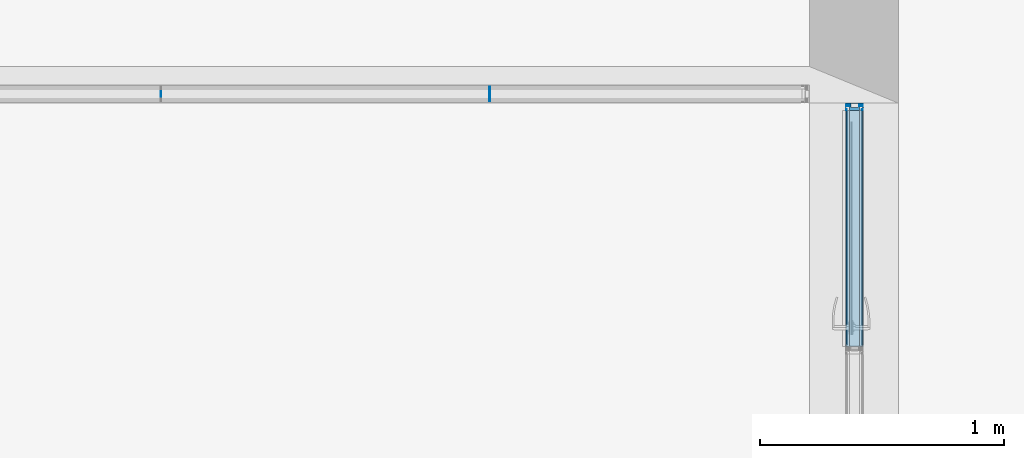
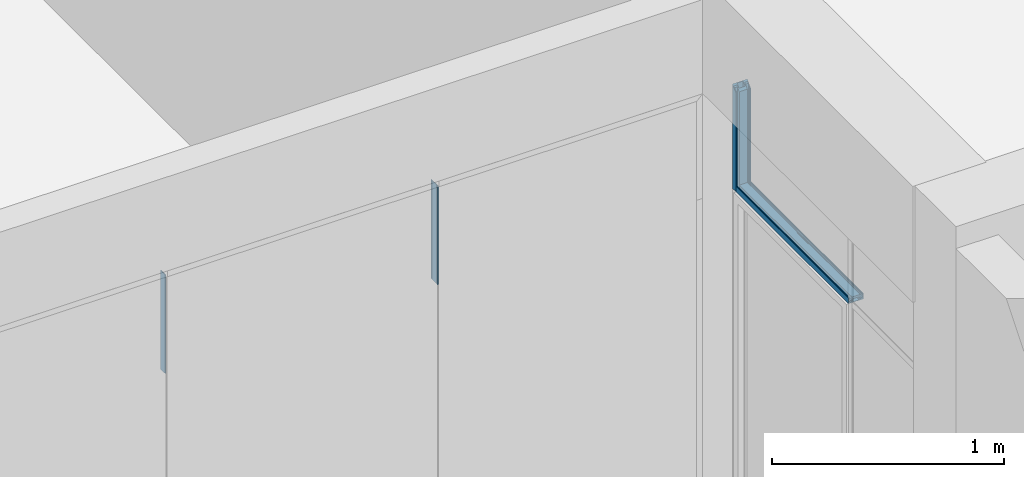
# One storey, part 33 of 89: 7 building element parts, 6 elements without a shape of their own.
"""IFC2X3 building model written with IfcOpenShell, lengths in millimetres."""

import ifcopenshell
import ifcopenshell.guid

model = None  # the IFC model being written
_history = None  # IfcOwnerHistory: only IFC2X3 demands one
_inside = {}  # id of a spatial element -> (the spatial element, [elements in it])
_under = {}  # id of a project, library or spatial element -> (it, [spatial elements below it])
_declared = {}  # id of a project -> (the project, [libraries it declares])
_typed = {}  # id of a type object -> (the type object, [elements of that type])
_made_of = {}  # id of a material, layer set ... -> (it, [elements and type objects made of it])


def new_model(schema):
    """Start an empty IFC model of exactly this schema.

    Asked for "IFC4X3", IfcOpenShell would pick the latest addendum, in which some entities
    have other attributes; the version numbers below select the first issue.
    IFC2X3 requires an IfcOwnerHistory on every rooted entity: one is made here for all.
    """
    global model, _history
    if schema == "IFC4X3":
        model = ifcopenshell.file(schema_version=(4, 3, 0, 0))
    else:
        model = ifcopenshell.file(schema=schema)
    _inside.clear()
    _under.clear()
    _declared.clear()
    _typed.clear()
    _made_of.clear()
    _history = None
    if model.schema == "IFC2X3":
        org = make("IfcOrganization", Name="unknown")
        user = make(
            "IfcPersonAndOrganization",
            ThePerson=make("IfcPerson", FamilyName="unknown"),
            TheOrganization=org,
        )
        app = make(
            "IfcApplication",
            ApplicationDeveloper=org,
            Version="unknown",
            ApplicationFullName="unknown",
            ApplicationIdentifier="unknown",
        )
        _history = make(
            "IfcOwnerHistory",
            OwningUser=user,
            OwningApplication=app,
            ChangeAction="ADDED",
            CreationDate=0,
        )
    return model


def make(cls, **values):
    """One entity of the class cls with the attributes given. An attribute that is None is left unset."""
    return model.create_entity(
        cls, **{name: value for name, value in values.items() if value is not None}
    )


def entity(cls, *values):
    """Any entity or typed value of the class cls, its attributes in the order of the schema. None: left unset."""
    e = model.create_entity(cls)
    for i, value in enumerate(values):
        if value is not None:
            e[i] = value
    return e


def rooted(cls, **values):
    """An entity with a GlobalId (a new one), such as an element, a storey or a relation."""
    return make(cls, GlobalId=ifcopenshell.guid.new(), OwnerHistory=_history, **values)


def si_unit(unit_type, name, prefix=None):
    """IfcSIUnit, for example si_unit("LENGTHUNIT", "METRE", prefix="MILLI")."""
    return make("IfcSIUnit", UnitType=unit_type, Prefix=prefix, Name=name)


def converted_unit(unit_type, name, factor, base, dimensions=None, offset=None):
    """IfcConversionBasedUnit, such as the inch: factor (a typed value) times the base unit."""
    return make(
        "IfcConversionBasedUnit"
        if offset is None
        else "IfcConversionBasedUnitWithOffset",
        ConversionOffset=offset,
        Dimensions=None
        if dimensions is None
        else entity("IfcDimensionalExponents", *dimensions),
        UnitType=unit_type,
        Name=name,
        ConversionFactor=make(
            "IfcMeasureWithUnit", ValueComponent=factor, UnitComponent=base
        ),
    )


def derived_unit(unit_type, elements):
    """IfcDerivedUnit: a product of units, each with its exponent."""
    return make(
        "IfcDerivedUnit",
        Elements=[
            make("IfcDerivedUnitElement", Unit=unit, Exponent=power)
            for unit, power in elements
        ],
        UnitType=unit_type,
    )


def money_unit(currency):
    """IfcMonetaryUnit."""
    return make("IfcMonetaryUnit", Currency=currency)


def assignment(units):
    """IfcUnitAssignment: the units of a project."""
    return None if units is None else make("IfcUnitAssignment", Units=units)


def point(xyz):
    """IfcCartesianPoint."""
    return None if xyz is None else make("IfcCartesianPoint", Coordinates=xyz)


def direction(xyz):
    """IfcDirection."""
    return None if xyz is None else make("IfcDirection", DirectionRatios=xyz)


def frame(location, z_axis=None, x_axis=None):
    """IfcAxis2Placement3D, a coordinate frame: its origin and axes. An axis left out is left unset."""
    return make(
        "IfcAxis2Placement3D",
        Location=point(location),
        Axis=direction(z_axis),
        RefDirection=direction(x_axis),
    )


def origin_with_axes():
    """The frame at (0, 0, 0) with the z axis (0, 0, 1) and the x axis (1, 0, 0) written out."""
    return frame((0.0, 0.0, 0.0), z_axis=(0.0, 0.0, 1.0), x_axis=(1.0, 0.0, 0.0))


def place(relative_to, where):
    """IfcLocalPlacement: puts the frame where relative to a parent placement (None: the world)."""
    return make(
        "IfcLocalPlacement", PlacementRelTo=relative_to, RelativePlacement=where
    )


def context(
    kind, dimensions, precision=None, world=None, true_north=None, identifier=None
):
    """IfcGeometricRepresentationContext, for example the 3D "Model" context."""
    return make(
        "IfcGeometricRepresentationContext",
        ContextIdentifier=identifier,
        ContextType=kind,
        CoordinateSpaceDimension=dimensions,
        Precision=precision,
        WorldCoordinateSystem=world,
        TrueNorth=true_north,
    )


def subcontext(parent, identifier, kind, view, scale=None):
    """IfcGeometricRepresentationSubContext, for example "Body" below "Model"."""
    return make(
        "IfcGeometricRepresentationSubContext",
        ContextIdentifier=identifier,
        ContextType=kind,
        ParentContext=parent,
        TargetScale=scale,
        TargetView=view,
    )


def project(units=None, contexts=None):
    """IfcProject with its units and contexts."""
    return rooted(
        "IfcProject",
        Name="project",
        RepresentationContexts=contexts,
        UnitsInContext=assignment(units),
    )


def spatial(cls, under=None, at=None, **own):
    """A site, building, storey or space (cls), placed at a placement, below another one or the project."""
    s = rooted(cls, ObjectPlacement=at, **own)
    if under is not None:
        _under.setdefault(under.id(), (under, []))[1].append(s)
    return s


def faces_of(points, faces, orient=None, outer=None):
    """IfcFace entities. A face is a list of loops; a loop is a list of indices into points, from 0.

    orient and outer hold one flag for each loop. By default every Orientation is true, the
    first loop of a face is its IfcFaceOuterBound and the others are IfcFaceBound.
    """
    made = []
    for i, loops in enumerate(faces):
        bounds = []
        for j, loop in enumerate(loops):
            is_outer = j == 0 if outer is None else outer[i][j]
            bounds.append(
                make(
                    "IfcFaceOuterBound" if is_outer else "IfcFaceBound",
                    Bound=make("IfcPolyLoop", Polygon=[points[k] for k in loop]),
                    Orientation=True if orient is None else orient[i][j],
                )
            )
        made.append(make("IfcFace", Bounds=bounds))
    return made


def faceted_brep(points, faces, orient=None, outer=None, voids=None):
    """IfcFacetedBrep: a solid bounded by flat faces; with voids (closed shells), ...WithVoids."""
    shared = [point(p) for p in points]
    hull = make("IfcClosedShell", CfsFaces=faces_of(shared, faces, orient, outer))
    if voids is None:
        return make("IfcFacetedBrep", Outer=hull)
    return make(
        "IfcFacetedBrepWithVoids",
        Outer=hull,
        Voids=[
            make(cls, CfsFaces=faces_of(shared, fs, o, b)) for cls, fs, o, b in voids
        ],
    )


def shape(context_of_items, identifier, shape_type, items):
    """IfcShapeRepresentation: the items that make up one representation, for example the "Body"."""
    return make(
        "IfcShapeRepresentation",
        ContextOfItems=context_of_items,
        RepresentationIdentifier=identifier,
        RepresentationType=shape_type,
        Items=items,
    )


def source(mapping_origin, context_of_items, identifier, shape_type, items):
    """IfcRepresentationMap: a shape defined once, which mapped items show again and again."""
    return make(
        "IfcRepresentationMap",
        MappingOrigin=mapping_origin,
        MappedRepresentation=shape(context_of_items, identifier, shape_type, items),
    )


def transform(
    local_origin,
    x_axis=None,
    y_axis=None,
    z_axis=None,
    scale=None,
    scale2=None,
    scale3=None,
    uniform=True,
):
    """IfcCartesianTransformationOperator3D, or its non-uniform kind. x_axis, y_axis, z_axis: its Axis1, 2, 3."""
    if uniform:
        return make(
            "IfcCartesianTransformationOperator3D",
            Axis1=direction(x_axis),
            Axis2=direction(y_axis),
            LocalOrigin=point(local_origin),
            Scale=scale,
            Axis3=direction(z_axis),
        )
    return make(
        "IfcCartesianTransformationOperator3DnonUniform",
        Axis1=direction(x_axis),
        Axis2=direction(y_axis),
        LocalOrigin=point(local_origin),
        Scale=scale,
        Axis3=direction(z_axis),
        Scale2=scale2,
        Scale3=scale3,
    )


def mapped(mapping_source, mapping_target):
    """IfcMappedItem: shows the shape of a source again, moved by a transform."""
    return make(
        "IfcMappedItem", MappingSource=mapping_source, MappingTarget=mapping_target
    )


def material(Name=None, Category=None):
    """IfcMaterial."""
    return make("IfcMaterial", Name=Name, Category=Category)


def made_of(thing, what):
    """Note that an element or type object is made of a material, layer set ...; save() writes the relation."""
    if what is not None:
        _made_of.setdefault(what.id(), (what, []))[1].append(thing)
    return thing


def type_object(cls, material=None, **own):
    """A type object (cls), such as IfcWallType, which elements share."""
    return made_of(rooted(cls, **own), material)


def element(
    cls,
    number,
    at=None,
    inside=None,
    cuts=None,
    type_object=None,
    material=None,
    context=None,
    identifier="Body",
    shape_type=None,
    held_by="IfcProductDefinitionShape",
    body=None,
    shapes=None,
    **own,
):
    """One element of the class cls, such as IfcWall. Its Tag is "e" and its number.

    at: its placement. inside: the storey or other place that contains it. cuts: it is an
    opening in that element (IfcRelVoidsElement). A single representation is given by context,
    identifier, shape_type and body (its items); several are given by shapes. held_by: the class
    of the entity that holds the representations. save() writes the other relations.
    """
    e = rooted(cls, Tag="e%d" % number, ObjectPlacement=at, **own)
    if body is not None:
        shapes = [shape(context, identifier, shape_type, body)]
    if shapes is not None:
        e.Representation = make(held_by, Representations=shapes)
    if inside is not None:
        _inside.setdefault(inside.id(), (inside, []))[1].append(e)
    if cuts is not None:
        rooted(
            "IfcRelVoidsElement", RelatingBuildingElement=cuts, RelatedOpeningElement=e
        )
    if type_object is not None:
        _typed.setdefault(type_object.id(), (type_object, []))[1].append(e)
    return made_of(e, material)


def aggregate(whole, parts):
    """IfcRelAggregates: a whole, such as a stair, and the parts it consists of."""
    return rooted("IfcRelAggregates", RelatingObject=whole, RelatedObjects=parts)


def save(model, path):
    """Write the relations noted so far, then the file.

    IfcRelAggregates (storeys below a building ...), IfcRelContainedInSpatialStructure (elements
    in a storey), IfcRelDefinesByType, IfcRelAssociatesMaterial and IfcRelDeclares: one each for
    every whole, place, type object, material and project.
    """
    for whole, parts in _under.values():
        aggregate(whole, parts)
    for where, things in _inside.values():
        rooted(
            "IfcRelContainedInSpatialStructure",
            RelatedElements=things,
            RelatingStructure=where,
        )
    for kind, things in _typed.values():
        rooted("IfcRelDefinesByType", RelatedObjects=things, RelatingType=kind)
    for what, things in _made_of.values():
        rooted("IfcRelAssociatesMaterial", RelatedObjects=things, RelatingMaterial=what)
    for by, libraries in _declared.values():
        rooted("IfcRelDeclares", RelatingContext=by, RelatedDefinitions=libraries)
    model.write(path)


model = new_model("IFC2X3")

# Units and contexts
model_context = context("Model", 3, precision=0.01, world=origin_with_axes(), true_north=direction((0.0, 1.0)))
body_context = subcontext(model_context, "Body", "Model", "MODEL_VIEW")
ifc_project = project(units=[si_unit("LENGTHUNIT", "METRE", prefix="MILLI"), si_unit("AREAUNIT", "SQUARE_METRE"), si_unit("VOLUMEUNIT", "CUBIC_METRE"), converted_unit("PLANEANGLEUNIT", "DEGREE", entity("IfcPlaneAngleMeasure", 0.0174532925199), si_unit("PLANEANGLEUNIT", "RADIAN"), dimensions=[0, 0, 0, 0, 0, 0, 0]), si_unit("SOLIDANGLEUNIT", "STERADIAN"), money_unit("EUR"), converted_unit("TIMEUNIT", "Year", entity("IfcTimeMeasure", 31556926.0), si_unit("TIMEUNIT", "SECOND"), dimensions=[0, 0, 1, 0, 0, 0, 0]), si_unit("MASSUNIT", "GRAM", prefix="KILO"), si_unit("THERMODYNAMICTEMPERATUREUNIT", "DEGREE_CELSIUS"), si_unit("LUMINOUSINTENSITYUNIT", "LUMEN"), si_unit("ENERGYUNIT", "JOULE", prefix="MEGA"), derived_unit("THERMALCONDUCTANCEUNIT", [(si_unit("POWERUNIT", "WATT"), 1), (si_unit("LENGTHUNIT", "METRE"), -1), (si_unit("THERMODYNAMICTEMPERATUREUNIT", "KELVIN"), -1)]), derived_unit("SPECIFICHEATCAPACITYUNIT", [(si_unit("ENERGYUNIT", "JOULE"), 1), (si_unit("MASSUNIT", "GRAM", prefix="KILO"), -1), (si_unit("THERMODYNAMICTEMPERATUREUNIT", "KELVIN"), -1)]), derived_unit("MASSDENSITYUNIT", [(si_unit("MASSUNIT", "GRAM", prefix="KILO"), 1), (si_unit("VOLUMEUNIT", "CUBIC_METRE"), -1)])], contexts=[model_context])

# Site, building, storey
site_placement = place(None, origin_with_axes())
site = spatial("IfcSite", under=ifc_project, at=site_placement, Name="Puškini 31, Narva", CompositionType="ELEMENT")
building_placement = place(site_placement, origin_with_axes())
building = spatial("IfcBuilding", under=site, at=building_placement, Name="Narva Riigigümnaasium", CompositionType="ELEMENT")
storey_placement = place(building_placement, frame((0.0, 0.0, -3300.0), z_axis=(0.0, 0.0, 1.0), x_axis=(1.0, 0.0, 0.0)))
storey = spatial("IfcBuildingStorey", under=building, at=storey_placement, Name="1.korrus -3.3", CompositionType="ELEMENT", Elevation=-3300.0)

# Curtain wall, members, building element parts
curtain_wall_type = type_object("IfcCurtainWallType", Name="Curtain Wall Type", PredefinedType="NOTDEFINED")
curtain_wall_1_placement = place(storey_placement, frame((40014.000008, 243997.000057, -9.155864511e-06), z_axis=(0.0, 0.0, 1.0), x_axis=(1.0, 0.0, 0.0)))
curtain_wall_1 = element("IfcCurtainWall", 1, at=curtain_wall_1_placement, inside=storey, type_object=curtain_wall_type, Name="G-SKLF-09")
member_type_1 = type_object("IfcMemberType", Name="3 x 19", PredefinedType="MULLION")
member_1_placement = place(curtain_wall_1_placement, frame((6163.99999221, 0.0, 2400.00000716), z_axis=(0.0, 0.0, 1.0), x_axis=(-1.0, 0.0, 0.0)))
member_1 = element("IfcMember", 2, at=member_1_placement, type_object=member_type_1, Name="G-SKLF-12-raam", ObjectType="MULLION")
ifc_material_1 = material(Name="Klaas")
shared_shape_1 = source(origin_with_axes(), body_context, "Body", "Brep", [
    faceted_brep([(1.4999861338, 20.0064497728, 0.0), (1.4999861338, 20.0064497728, 519.999980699), (-1.5000138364, 20.0064497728, 519.999980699), (-1.5000138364, 20.0064497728, 0.0), (1.4999861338, 29.0064496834, 0.0), (1.4999861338, 29.0064496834, 519.999980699), (-1.5000138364, 29.0064496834, 519.999980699), (-1.5000138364, 29.0064496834, 0.0)], [[[0, 1, 2, 3]], [[4, 5, 1, 0]], [[1, 5, 6, 2]], [[3, 2, 6, 7]], [[0, 3, 7, 4]], [[7, 6, 5, 4]]]),
    faceted_brep([(1.4999861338, -19.993550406, 0.0), (1.4999861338, -19.993550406, 519.999980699), (1.4999861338, -28.9935503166, 519.999980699), (1.4999861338, -28.9935503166, 0.0), (-1.5000138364, -19.993550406, 0.0), (-1.5000138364, -19.993550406, 519.999980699), (-1.5000138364, -28.9935503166, 519.999980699), (-1.5000138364, -28.9935503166, 0.0)], [[[0, 1, 2, 3]], [[4, 5, 1, 0]], [[1, 5, 6, 2]], [[3, 2, 6, 7]], [[0, 3, 7, 4]], [[7, 6, 5, 4]]]),
])
building_element_part_1_placement = place(member_1_placement, origin_with_axes())
building_element_part_1 = element("IfcBuildingElementPart", 3, at=building_element_part_1_placement, material=ifc_material_1, Name="Klaas", context=body_context, shape_type="MappedRepresentation", body=[
    mapped(shared_shape_1, transform((0.0, 0.0, 0.0), x_axis=(-1.0, 0.0, 0.0), y_axis=(0.0, -1.0, 0.0), z_axis=(0.0, 0.0, 1.0))),
])
member_2_placement = place(curtain_wall_1_placement, frame((4813.99999221, 0.0, 2400.00000716), z_axis=(0.0, 0.0, 1.0), x_axis=(-1.0, 0.0, 0.0)))
member_2 = element("IfcMember", 4, at=member_2_placement, type_object=member_type_1, Name="G-SKLF-10-raam", ObjectType="MULLION")
aggregate(curtain_wall_1, [member_2, member_1])
ifc_material_2 = material(Name="VKR-06_Õhkvahe")
shared_shape_2 = source(origin_with_axes(), body_context, "Body", "Brep", [
    faceted_brep([(1.4999861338, 20.0064496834, 0.0), (1.4999861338, 20.0064496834, 519.999980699), (1.4999861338, -19.9935503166, 519.999980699), (1.4999861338, -19.9935503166, 0.0), (-1.5000138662, 20.0064496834, 0.0), (-1.5000138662, 20.0064496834, 519.999980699), (-1.5000138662, -19.9935503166, 519.999980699), (-1.5000138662, -19.9935503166, 0.0)], [[[0, 1, 2, 3]], [[4, 5, 1, 0]], [[1, 5, 6, 2]], [[3, 2, 6, 7]], [[0, 3, 7, 4]], [[7, 6, 5, 4]]]),
])
building_element_part_2_placement = place(member_2_placement, origin_with_axes())
building_element_part_2 = element("IfcBuildingElementPart", 5, at=building_element_part_2_placement, material=ifc_material_2, Name="VKR-06_Õhkvahe", context=body_context, shape_type="MappedRepresentation", body=[
    mapped(shared_shape_2, transform((0.0, 0.0, 0.0), x_axis=(-1.0, 0.0, 0.0), y_axis=(0.0, -1.0, 0.0), z_axis=(0.0, 0.0, 1.0))),
])
aggregate(member_2, [building_element_part_2])
building_element_part_3_placement = place(member_1_placement, origin_with_axes())
building_element_part_3 = element("IfcBuildingElementPart", 6, at=building_element_part_3_placement, material=ifc_material_2, Name="VKR-06_Õhkvahe", context=body_context, shape_type="MappedRepresentation", body=[
    mapped(shared_shape_2, transform((0.0, 0.0, 0.0), x_axis=(-1.0, 0.0, 0.0), y_axis=(0.0, -1.0, 0.0), z_axis=(0.0, 0.0, 1.0))),
])
aggregate(member_1, [building_element_part_1, building_element_part_3])

curtain_wall_2_placement = place(storey_placement, frame((47675.0000001, 242632.20006, -3.78005973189e-05), z_axis=(0.0, 0.0, 1.0), x_axis=(1.0, 0.0, 0.0)))
curtain_wall_2 = element("IfcCurtainWall", 7, at=curtain_wall_2_placement, inside=storey, type_object=curtain_wall_type, Name="G-SKLF-10")
member_type_2 = type_object("IfcMemberType", Name="30 x 37", PredefinedType="MULLION")
member_3_placement = place(curtain_wall_2_placement, frame((0.0, 1327.79999696, 2400.0000378), z_axis=(0.0, 0.0, 1.0), x_axis=(0.0, 1.0, 0.0)))
member_3 = element("IfcMember", 8, at=member_3_placement, type_object=member_type_2, Name="G-SKLF-10-raam", ObjectType="MULLION")
ifc_material_3 = material(Name="Klaasvill")
shared_shape_3 = source(origin_with_axes(), body_context, "Body", "Brep", [
    faceted_brep([(-7.49999990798, 20.000000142, 0.0), (-7.49999990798, 20.000000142, 542.499955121), (-13.8499999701, 20.000000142, 536.149955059), (-13.8499999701, 20.000000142, 0.0), (-7.49999990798, 34.0161444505, 0.0), (-7.49999990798, 34.0161444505, 542.499955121), (-13.8499999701, 34.0161444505, 536.149955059), (-13.8499999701, 34.0161444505, 0.0)], [[[0, 1, 2, 3]], [[4, 5, 1, 0]], [[1, 5, 6, 2]], [[3, 2, 6, 7]], [[0, 3, 7, 4]], [[7, 6, 5, 4]]]),
    faceted_brep([(-24.987414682, 34.0161444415, 0.0), (-24.987414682, 34.0161444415, 525.012540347), (-25.004489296, 32.0307503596, 524.995465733), (-25.004489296, 32.0307503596, 0.0), (-28.5126239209, 34.0161444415, 0.0), (-28.5126239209, 34.0161444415, 521.487331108), (-28.7655837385, 33.0385325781, 521.234371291), (-28.4955493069, 32.0307503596, 521.504405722), (-27.75780152, 31.2930025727, 522.242153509), (-26.7500193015, 31.0229681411, 523.249935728), (-25.742237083, 31.2930025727, 524.257717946), (-25.742237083, 31.2930025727, 0.0), (-26.7500193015, 31.0229681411, 0.0), (-27.75780152, 31.2930025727, 0.0), (-28.4955493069, 32.0307503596, 0.0), (-28.7655837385, 33.0385325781, 0.0)], [[[0, 1, 2, 3]], [[4, 5, 1, 0]], [[1, 5, 6, 7, 8, 9, 10, 2]], [[3, 2, 10, 11]], [[0, 3, 11, 12, 13, 14, 15, 4]], [[15, 6, 5, 4]], [[14, 7, 6, 15]], [[13, 8, 7, 14]], [[12, 9, 8, 13]], [[11, 10, 9, 12]]]),
    faceted_brep([(-7.49999990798, -19.9999997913, 0.0), (-7.49999990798, -19.9999997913, 542.499955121), (-7.49999990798, -34.0161445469, 542.499955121), (-7.49999990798, -34.0161445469, 0.0), (-13.8499999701, -19.9999997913, 0.0), (-13.8499999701, -19.9999997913, 536.149955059), (-13.8499999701, -34.0161445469, 536.149955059), (-13.8499999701, -34.0161445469, 0.0)], [[[0, 1, 2, 3]], [[4, 5, 1, 0]], [[1, 5, 6, 2]], [[3, 2, 6, 7]], [[0, 3, 7, 4]], [[7, 6, 5, 4]]]),
    faceted_brep([(-25.004489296, -32.0307503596, 0.0), (-25.004489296, -32.0307503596, 524.995465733), (-24.987414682, -34.0161444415, 525.012540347), (-24.987414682, -34.0161444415, 0.0), (-25.742237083, -31.2930025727, 0.0), (-25.742237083, -31.2930025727, 524.257717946), (-26.7500193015, -31.0229681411, 523.249935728), (-27.75780152, -31.2930025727, 522.242153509), (-28.4955493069, -32.0307503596, 521.504405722), (-28.7655837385, -33.0385325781, 521.234371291), (-28.5126239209, -34.0161444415, 521.487331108), (-28.5126239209, -34.0161444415, 0.0), (-28.7655837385, -33.0385325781, 0.0), (-28.4955493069, -32.0307503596, 0.0), (-27.75780152, -31.2930025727, 0.0), (-26.7500193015, -31.0229681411, 0.0)], [[[0, 1, 2, 3]], [[4, 5, 1, 0]], [[1, 5, 6, 7, 8, 9, 10, 2]], [[3, 2, 10, 11]], [[0, 3, 11, 12, 13, 14, 15, 4]], [[15, 6, 5, 4]], [[14, 7, 6, 15]], [[13, 8, 7, 14]], [[12, 9, 8, 13]], [[11, 10, 9, 12]]]),
])
building_element_part_4_placement = place(member_3_placement, origin_with_axes())
building_element_part_4 = element("IfcBuildingElementPart", 9, at=building_element_part_4_placement, material=ifc_material_3, Name="Klaasvill", context=body_context, shape_type="MappedRepresentation", body=[
    mapped(shared_shape_3, transform((0.0, 0.0, 0.0))),
])
ifc_material_4 = material(Name="Teras RAL7012")
shared_shape_4 = source(origin_with_axes(), body_context, "Body", "Brep", [
    faceted_brep([(0.0, -17.0000000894, 0.0), (0.0, -17.0000000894, 549.999955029), (-29.5999996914, -17.0000000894, 520.399955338), (-29.5999996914, -17.0000000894, 0.0), (0.0, 17.0000000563, 0.0), (0.0, 17.0000000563, 549.999955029), (-29.5999996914, 17.0000000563, 520.399955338), (-1.9999999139, 15.0000001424, 547.999955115), (-1.9999999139, -15.0000001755, 547.999955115), (-18.7999996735, -15.0000001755, 531.199955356), (-18.7999996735, 15.0000001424, 531.199955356), (-29.5999996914, 17.0000000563, 0.0), (-1.9999999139, 15.0000001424, 0.0), (-18.7999996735, 15.0000001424, 0.0), (-18.7999996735, -15.0000001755, 0.0), (-1.9999999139, -15.0000001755, 0.0)], [[[0, 1, 2, 3]], [[4, 5, 1, 0]], [[1, 5, 6, 2], [7, 8, 9, 10]], [[3, 2, 6, 11]], [[0, 3, 11, 4], [12, 13, 14, 15]], [[11, 6, 5, 4]], [[15, 8, 7, 12]], [[14, 9, 8, 15]], [[13, 10, 9, 14]], [[12, 7, 10, 13]]]),
    faceted_brep([(0.0, 17.0, 0.0), (0.0, 17.0, 549.999955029), (-29.5999996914, 17.0000000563, 520.399955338), (-29.5999996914, 17.0000000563, 0.0), (0.0, 37.0, 0.0), (0.0, 37.0, 549.999955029), (-30.0000193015, 37.0, 519.999935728), (-30.0000193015, 34.0161444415, 519.999935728), (-28.5126239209, 34.0161444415, 521.487331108), (-24.987414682, 34.0161444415, 525.012540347), (-13.8499999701, 34.0161444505, 536.149955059), (-7.49999999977, 34.0161444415, 542.49995503), (-7.49999999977, 20.0, 542.49995503), (-13.8499999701, 20.000000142, 536.149955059), (-30.0000193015, 20.0, 519.999935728), (-30.0000193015, 17.0, 519.999935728), (-30.0000193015, 17.0, 0.0), (-30.0000193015, 20.0, 0.0), (-13.8499999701, 20.000000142, 0.0), (-7.49999999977, 20.0, 0.0), (-7.49999999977, 34.0161444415, 0.0), (-13.8499999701, 34.0161444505, 0.0), (-24.987414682, 34.0161444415, 0.0), (-28.5126239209, 34.0161444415, 0.0), (-30.0000193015, 34.0161444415, 0.0), (-30.0000193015, 37.0, 0.0)], [[[0, 1, 2, 3]], [[4, 5, 1, 0]], [[1, 5, 6, 7, 8, 9, 10, 11, 12, 13, 14, 15, 2]], [[3, 2, 15, 16]], [[0, 3, 16, 17, 18, 19, 20, 21, 22, 23, 24, 25, 4]], [[25, 6, 5, 4]], [[24, 7, 6, 25]], [[23, 8, 7, 24]], [[22, 9, 8, 23]], [[21, 10, 9, 22]], [[20, 11, 10, 21]], [[19, 12, 11, 20]], [[18, 13, 12, 19]], [[17, 14, 13, 18]], [[16, 15, 14, 17]]]),
    faceted_brep([(0.0, -17.0, 0.0), (0.0, -17.0, 549.999955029), (0.0, -37.0, 549.999955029), (0.0, -37.0, 0.0), (-29.5999996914, -17.0000000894, 0.0), (-29.5999996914, -17.0000000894, 520.399955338), (-30.0000193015, -17.0, 519.999935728), (-30.0000193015, -20.0, 519.999935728), (-13.8499999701, -19.9999997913, 536.149955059), (-7.49999999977, -20.0, 542.49995503), (-7.49999999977, -34.0161444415, 542.49995503), (-13.8499999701, -34.0161445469, 536.149955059), (-24.987414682, -34.0161444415, 525.012540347), (-28.5126239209, -34.0161444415, 521.487331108), (-30.0000193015, -34.0161444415, 519.999935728), (-30.0000193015, -37.0, 519.999935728), (-30.0000193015, -37.0, 0.0), (-30.0000193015, -34.0161444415, 0.0), (-28.5126239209, -34.0161444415, 0.0), (-24.987414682, -34.0161444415, 0.0), (-13.8499999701, -34.0161445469, 0.0), (-7.49999999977, -34.0161444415, 0.0), (-7.49999999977, -20.0, 0.0), (-13.8499999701, -19.9999997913, 0.0), (-30.0000193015, -20.0, 0.0), (-30.0000193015, -17.0, 0.0)], [[[0, 1, 2, 3]], [[4, 5, 1, 0]], [[1, 5, 6, 7, 8, 9, 10, 11, 12, 13, 14, 15, 2]], [[3, 2, 15, 16]], [[0, 3, 16, 17, 18, 19, 20, 21, 22, 23, 24, 25, 4]], [[25, 6, 5, 4]], [[24, 7, 6, 25]], [[23, 8, 7, 24]], [[22, 9, 8, 23]], [[21, 10, 9, 22]], [[20, 11, 10, 21]], [[19, 12, 11, 20]], [[18, 13, 12, 19]], [[17, 14, 13, 18]], [[16, 15, 14, 17]]]),
])
building_element_part_5_placement = place(member_3_placement, origin_with_axes())
building_element_part_5 = element("IfcBuildingElementPart", 10, at=building_element_part_5_placement, material=ifc_material_4, Name="Teras RAL7012", context=body_context, shape_type="MappedRepresentation", body=[
    mapped(shared_shape_4, transform((0.0, 0.0, 0.0))),
])
aggregate(member_3, [building_element_part_4, building_element_part_5])
member_type_3 = type_object("IfcMemberType", Name="30 x 27", PredefinedType="MULLION")
member_4_placement = place(curtain_wall_2_placement, frame((0.0, 1327.79999696, 2400.0000378), z_axis=(0.0, -1.0, 0.0), x_axis=(0.0, 0.0, 1.0)))
member_4 = element("IfcMember", 11, at=member_4_placement, type_object=member_type_3, Name="G-SKLF-10-raam", ObjectType="MULLION")
aggregate(curtain_wall_2, [member_4, member_3])
shared_shape_5 = source(origin_with_axes(), body_context, "Body", "Brep", [
    faceted_brep([(13.8499999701, 20.000000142, 30.0000193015), (13.8499999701, 20.000000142, 1000.0), (7.49999990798, 20.000000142, 1000.0), (7.49999990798, 20.000000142, 30.0000193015), (13.8499999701, 34.0161444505, 30.0000193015), (13.8499999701, 34.0161444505, 1000.0), (7.49999990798, 34.0161444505, 1000.0), (7.49999990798, 34.0161444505, 30.0000193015)], [[[0, 1, 2, 3]], [[4, 5, 1, 0]], [[2, 1, 5, 6]], [[3, 2, 6, 7]], [[3, 7, 4, 0]], [[7, 6, 5, 4]]]),
    faceted_brep([(25.004489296, 32.0307503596, 30.0000193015), (25.004489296, 32.0307503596, 1000.0), (24.987414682, 34.0161444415, 1000.0), (24.987414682, 34.0161444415, 30.0000193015), (25.742237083, 31.2930025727, 30.0000193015), (25.742237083, 31.2930025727, 1000.0), (26.7500193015, 31.0229681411, 1000.0), (27.75780152, 31.2930025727, 1000.0), (28.4955493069, 32.0307503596, 1000.0), (28.7655837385, 33.0385325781, 1000.0), (28.5126239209, 34.0161444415, 1000.0), (28.5126239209, 34.0161444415, 30.0000193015), (28.7655837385, 33.0385325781, 30.0000193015), (28.4955493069, 32.0307503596, 30.0000193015), (27.75780152, 31.2930025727, 30.0000193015), (26.7500193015, 31.0229681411, 30.0000193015)], [[[0, 1, 2, 3]], [[4, 5, 1, 0]], [[2, 1, 5, 6, 7, 8, 9, 10]], [[3, 2, 10, 11]], [[3, 11, 12, 13, 14, 15, 4, 0]], [[15, 6, 5, 4]], [[14, 7, 6, 15]], [[13, 8, 7, 14]], [[12, 9, 8, 13]], [[11, 10, 9, 12]]]),
    faceted_brep([(7.49999990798, -34.0161445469, 30.0000193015), (7.49999990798, -34.0161445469, 1000.0), (7.49999990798, -19.9999997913, 1000.0), (7.49999990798, -19.9999997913, 30.0000193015), (13.8499999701, -34.0161445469, 30.0000193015), (13.8499999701, -34.0161445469, 1000.0), (13.8499999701, -19.9999997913, 1000.0), (13.8499999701, -19.9999997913, 30.0000193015)], [[[0, 1, 2, 3]], [[4, 5, 1, 0]], [[2, 1, 5, 6]], [[3, 2, 6, 7]], [[3, 7, 4, 0]], [[7, 6, 5, 4]]]),
    faceted_brep([(24.987414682, -34.0161444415, 30.0000193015), (24.987414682, -34.0161444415, 1000.0), (25.004489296, -32.0307503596, 1000.0), (25.004489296, -32.0307503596, 30.0000193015), (28.5126239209, -34.0161444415, 30.0000193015), (28.5126239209, -34.0161444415, 1000.0), (28.7655837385, -33.0385325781, 1000.0), (28.4955493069, -32.0307503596, 1000.0), (27.75780152, -31.2930025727, 1000.0), (26.7500193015, -31.0229681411, 1000.0), (25.742237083, -31.2930025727, 1000.0), (25.742237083, -31.2930025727, 30.0000193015), (26.7500193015, -31.0229681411, 30.0000193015), (27.75780152, -31.2930025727, 30.0000193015), (28.4955493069, -32.0307503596, 30.0000193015), (28.7655837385, -33.0385325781, 30.0000193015)], [[[0, 1, 2, 3]], [[4, 5, 1, 0]], [[2, 1, 5, 6, 7, 8, 9, 10]], [[3, 2, 10, 11]], [[3, 11, 12, 13, 14, 15, 4, 0]], [[15, 6, 5, 4]], [[14, 7, 6, 15]], [[13, 8, 7, 14]], [[12, 9, 8, 13]], [[11, 10, 9, 12]]]),
])
building_element_part_6_placement = place(member_4_placement, origin_with_axes())
building_element_part_6 = element("IfcBuildingElementPart", 12, at=building_element_part_6_placement, material=ifc_material_3, Name="Klaasvill", context=body_context, shape_type="MappedRepresentation", body=[
    mapped(shared_shape_5, transform((0.0, 0.0, 0.0))),
])
shared_shape_6 = source(origin_with_axes(), body_context, "Body", "Brep", [
    faceted_brep([(29.5999996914, -17.0000000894, 30.0000193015), (29.5999996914, -17.0000000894, 1000.0), (0.0, -17.0000000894, 1000.0), (0.0, -17.0000000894, 30.0000193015), (29.5999996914, 17.0000000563, 30.0000193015), (29.5999996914, 17.0000000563, 1000.0), (0.0, 17.0000000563, 1000.0), (1.9999999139, 15.0000001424, 1000.0), (18.7999996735, 15.0000001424, 1000.0), (18.7999996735, -15.0000001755, 1000.0), (1.9999999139, -15.0000001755, 1000.0), (0.0, 17.0000000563, 30.0000193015), (1.9999999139, 15.0000001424, 30.0000193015), (1.9999999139, -15.0000001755, 30.0000193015), (18.7999996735, -15.0000001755, 30.0000193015), (18.7999996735, 15.0000001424, 30.0000193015)], [[[0, 1, 2, 3]], [[4, 5, 1, 0]], [[2, 1, 5, 6], [7, 8, 9, 10]], [[3, 2, 6, 11]], [[3, 11, 4, 0], [12, 13, 14, 15]], [[11, 6, 5, 4]], [[15, 8, 7, 12]], [[14, 9, 8, 15]], [[13, 10, 9, 14]], [[12, 7, 10, 13]]]),
    faceted_brep([(29.5999996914, 17.0000000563, 30.0000193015), (29.5999996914, 17.0000000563, 1000.0), (0.0, 17.0, 1000.0), (0.0, 17.0, 30.0000193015), (30.0000193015, 17.0, 30.0000193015), (30.0000193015, 17.0, 1000.0), (30.0000193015, 20.0, 1000.0), (13.8499999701, 20.000000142, 1000.0), (7.49999999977, 20.0, 1000.0), (7.49999999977, 34.0161444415, 1000.0), (13.8499999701, 34.0161444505, 1000.0), (24.987414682, 34.0161444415, 1000.0), (28.5126239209, 34.0161444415, 1000.0), (30.0000193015, 34.0161444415, 1000.0), (30.0000193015, 37.0, 1000.0), (0.0, 37.0, 1000.0), (0.0, 37.0, 30.0000193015), (30.0000193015, 37.0, 30.0000193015), (30.0000193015, 34.0161444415, 30.0000193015), (28.5126239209, 34.0161444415, 30.0000193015), (24.987414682, 34.0161444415, 30.0000193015), (13.8499999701, 34.0161444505, 30.0000193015), (7.49999999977, 34.0161444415, 30.0000193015), (7.49999999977, 20.0, 30.0000193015), (13.8499999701, 20.000000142, 30.0000193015), (30.0000193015, 20.0, 30.0000193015)], [[[0, 1, 2, 3]], [[4, 5, 1, 0]], [[2, 1, 5, 6, 7, 8, 9, 10, 11, 12, 13, 14, 15]], [[3, 2, 15, 16]], [[3, 16, 17, 18, 19, 20, 21, 22, 23, 24, 25, 4, 0]], [[25, 6, 5, 4]], [[24, 7, 6, 25]], [[23, 8, 7, 24]], [[22, 9, 8, 23]], [[21, 10, 9, 22]], [[20, 11, 10, 21]], [[19, 12, 11, 20]], [[18, 13, 12, 19]], [[17, 14, 13, 18]], [[16, 15, 14, 17]]]),
    faceted_brep([(0.0, -37.0, 30.0000193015), (0.0, -37.0, 1000.0), (0.0, -17.0, 1000.0), (0.0, -17.0, 30.0000193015), (30.0000193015, -37.0, 30.0000193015), (30.0000193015, -37.0, 1000.0), (30.0000193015, -34.0161444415, 1000.0), (28.5126239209, -34.0161444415, 1000.0), (24.987414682, -34.0161444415, 1000.0), (13.8499999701, -34.0161445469, 1000.0), (7.49999999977, -34.0161444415, 1000.0), (7.49999999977, -20.0, 1000.0), (13.8499999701, -19.9999997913, 1000.0), (30.0000193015, -20.0, 1000.0), (30.0000193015, -17.0, 1000.0), (29.5999996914, -17.0000000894, 1000.0), (29.5999996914, -17.0000000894, 30.0000193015), (30.0000193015, -17.0, 30.0000193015), (30.0000193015, -20.0, 30.0000193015), (13.8499999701, -19.9999997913, 30.0000193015), (7.49999999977, -20.0, 30.0000193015), (7.49999999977, -34.0161444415, 30.0000193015), (13.8499999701, -34.0161445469, 30.0000193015), (24.987414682, -34.0161444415, 30.0000193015), (28.5126239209, -34.0161444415, 30.0000193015), (30.0000193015, -34.0161444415, 30.0000193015)], [[[0, 1, 2, 3]], [[4, 5, 1, 0]], [[2, 1, 5, 6, 7, 8, 9, 10, 11, 12, 13, 14, 15]], [[3, 2, 15, 16]], [[3, 16, 17, 18, 19, 20, 21, 22, 23, 24, 25, 4, 0]], [[25, 6, 5, 4]], [[24, 7, 6, 25]], [[23, 8, 7, 24]], [[22, 9, 8, 23]], [[21, 10, 9, 22]], [[20, 11, 10, 21]], [[19, 12, 11, 20]], [[18, 13, 12, 19]], [[17, 14, 13, 18]], [[16, 15, 14, 17]]]),
])
building_element_part_7_placement = place(member_4_placement, origin_with_axes())
building_element_part_7 = element("IfcBuildingElementPart", 13, at=building_element_part_7_placement, material=ifc_material_4, Name="Teras RAL7012", context=body_context, shape_type="MappedRepresentation", body=[
    mapped(shared_shape_6, transform((0.0, 0.0, 0.0))),
])
aggregate(member_4, [building_element_part_6, building_element_part_7])

save(model, "model.ifc")
